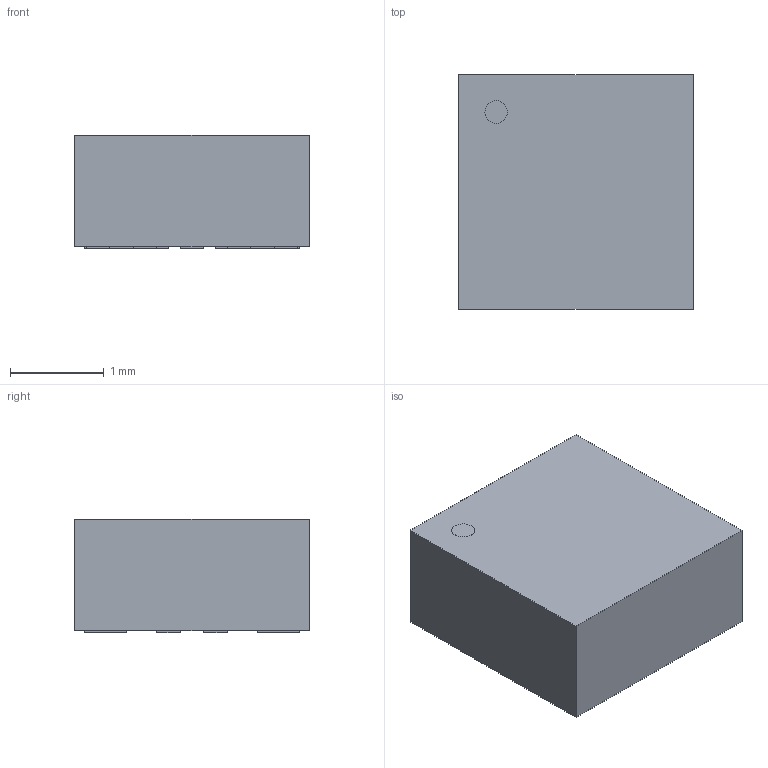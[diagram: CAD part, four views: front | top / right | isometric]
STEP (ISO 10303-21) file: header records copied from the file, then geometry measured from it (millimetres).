
FILE_DESCRIPTION(('Open CASCADE Model'),'2;1');
FILE_NAME('Open CASCADE Shape Model','2026-10-11T19:46:22',('Author'),( 'Open CASCADE'),'Open CASCADE STEP processor 7.7','Open CASCADE 7.7' ,'Unknown');
FILE_SCHEMA(('AUTOMOTIVE_DESIGN { 1 0 10303 214 1 1 1 1 }'));
Length unit declared in the file: millimetre
Products named in the file (16): MPM3834C nominal body 2.50x2.50x1.21; max height1.31; Terminal 14 nominal land-aligned visualization; Terminal 3 nominal land-aligned visualization; Terminal 13 nominal land-aligned visualization; Terminal 4 nominal land-aligned visualization; Terminal 12 nominal land-aligned visualization; Terminal 5 nominal land-aligned visualization; Terminal 11 nominal land-aligned visualization; Terminal 6 nominal land-aligned visualization; Terminal 10 nominal land-aligned visualization; Terminal 7 nominal land-aligned visualization; Terminal 1 nominal land-aligned visualization; Terminal 2 nominal land-aligned visualization; Terminal 9 nominal land-aligned visualization; Terminal 8 nominal land-aligned visualization; Pin1 nominal visual marker
Bounding box: 2.5 x 2.5 x 1.21 mm (x, y, z)
Volume: 7.5 mm3; surface area: 29.3 mm2
Topology: 16 solids, 16 shells, 93 faces, 183 edges, 122 vertices
Faces by surface type: plane 92, cylinder 1
Full cylindrical faces by diameter (mm): 0.24 x1
Entity records: 5011 total; most frequent: CARTESIAN_POINT 765, DIRECTION 739, LINE 545, VECTOR 545, ORIENTED_EDGE 366, PCURVE 366, DEFINITIONAL_REPRESENTATION 366, EDGE_CURVE 183
